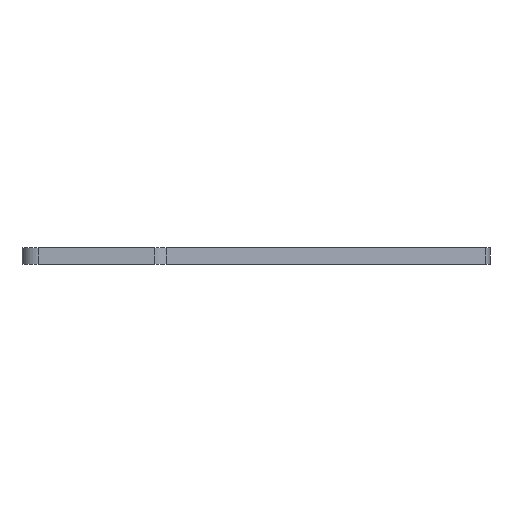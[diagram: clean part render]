
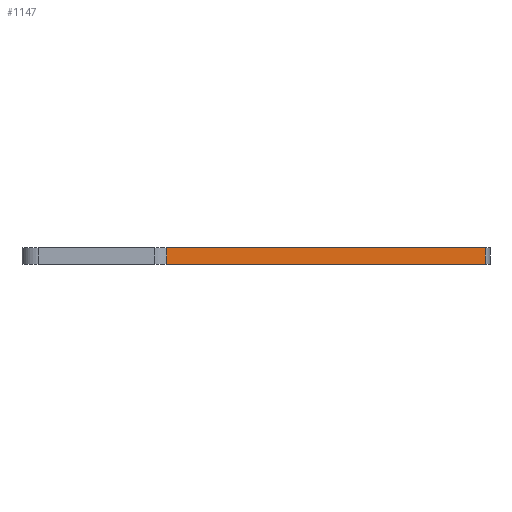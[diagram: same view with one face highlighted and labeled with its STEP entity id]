
A CAD part, left-side view. The second image highlights one B-rep face of the part: STEP entity #1147.
In plain terms, the highlighted planar face has unit normal (-0.712, -0.703, 0).
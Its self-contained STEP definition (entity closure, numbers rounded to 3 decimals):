
#6 = DIRECTION ( 'NONE',  ( 0.712, 0.703, 0. ) ) ;
#16 = EDGE_CURVE ( 'NONE', #940, #1197, #1396, .T. ) ;
#31 = CARTESIAN_POINT ( 'NONE',  ( -47.923, -17.6, 1. ) ) ;
#65 = PLANE ( 'NONE',  #822 ) ;
#217 = ORIENTED_EDGE ( 'NONE', *, *, #902, .T. ) ;
#263 = CARTESIAN_POINT ( 'NONE',  ( -9.6, -56.405, -1. ) ) ;
#318 = ORIENTED_EDGE ( 'NONE', *, *, #865, .T. ) ;
#374 = DIRECTION ( 'NONE',  ( 0., 0., -1. ) ) ;
#381 = LINE ( 'NONE', #812, #888 ) ;
#423 = CARTESIAN_POINT ( 'NONE',  ( -9.6, -56.405, 1. ) ) ;
#449 = DIRECTION ( 'NONE',  ( -0.703, 0.712, 0. ) ) ;
#453 = ORIENTED_EDGE ( 'NONE', *, *, #16, .F. ) ;
#478 = DIRECTION ( 'NONE',  ( 0.703, -0.712, 0. ) ) ;
#551 = VERTEX_POINT ( 'NONE', #887 ) ;
#556 = ORIENTED_EDGE ( 'NONE', *, *, #793, .F. ) ;
#604 = CARTESIAN_POINT ( 'NONE',  ( -9.6, -56.405, 1. ) ) ;
#793 = EDGE_CURVE ( 'NONE', #551, #940, #1012, .T. ) ;
#807 = CARTESIAN_POINT ( 'NONE',  ( -47.923, -17.6, -1. ) ) ;
#812 = CARTESIAN_POINT ( 'NONE',  ( -47.923, -17.6, -1. ) ) ;
#822 = AXIS2_PLACEMENT_3D ( 'NONE', #990, #6, #449 ) ;
#850 = VECTOR ( 'NONE', #858, 1000. ) ;
#858 = DIRECTION ( 'NONE',  ( 0., 0., -1. ) ) ;
#865 = EDGE_CURVE ( 'NONE', #551, #873, #916, .T. ) ;
#873 = VERTEX_POINT ( 'NONE', #807 ) ;
#887 = CARTESIAN_POINT ( 'NONE',  ( -47.923, -17.6, 1. ) ) ;
#888 = VECTOR ( 'NONE', #1254, 1000. ) ;
#902 = EDGE_CURVE ( 'NONE', #873, #1197, #381, .T. ) ;
#916 = LINE ( 'NONE', #1347, #1141 ) ;
#940 = VERTEX_POINT ( 'NONE', #604 ) ;
#990 = CARTESIAN_POINT ( 'NONE',  ( -47.923, -17.6, 1. ) ) ;
#1012 = LINE ( 'NONE', #31, #1389 ) ;
#1047 = FACE_OUTER_BOUND ( 'NONE', #1225, .T. ) ;
#1141 = VECTOR ( 'NONE', #374, 1000. ) ;
#1147 = ADVANCED_FACE ( 'NONE', ( #1047 ), #65, .F. ) ;
#1197 = VERTEX_POINT ( 'NONE', #263 ) ;
#1225 = EDGE_LOOP ( 'NONE', ( #217, #453, #556, #318 ) ) ;
#1254 = DIRECTION ( 'NONE',  ( 0.703, -0.712, 0. ) ) ;
#1347 = CARTESIAN_POINT ( 'NONE',  ( -47.923, -17.6, 1. ) ) ;
#1389 = VECTOR ( 'NONE', #478, 1000. ) ;
#1396 = LINE ( 'NONE', #423, #850 ) ;
